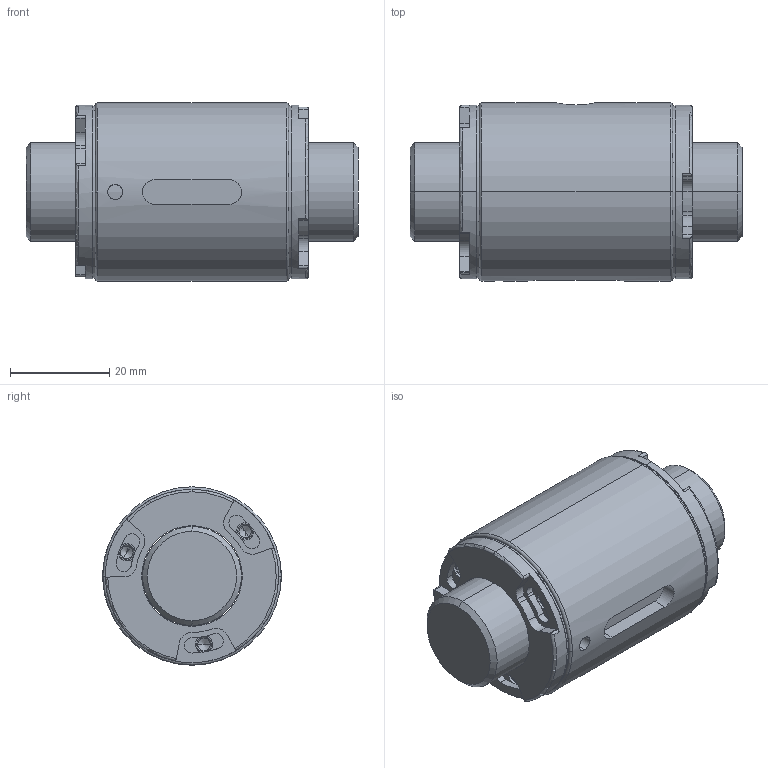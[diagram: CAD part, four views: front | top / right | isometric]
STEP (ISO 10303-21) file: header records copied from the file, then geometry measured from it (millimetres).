
FILE_DESCRIPTION (( 'STEP AP203' ), '1' );
FILE_NAME ('SCHR02005E1-C.STEP', '2020-06-17T08:47:31', ( '' ), ( '' ), 'SwSTEP 2.0', 'SolidWorks 2013', '' );
FILE_SCHEMA (( 'CONFIG_CONTROL_DESIGN' ));
Length unit declared in the file: millimetre
Products named in the file (1): SCHR02005E1-C
Bounding box: 67 x 36 x 36 mm (x, y, z)
Volume: 49684.9 mm3; surface area: 15482.9 mm2
Topology: 2 solids, 2 shells, 226 faces, 575 edges, 363 vertices
Faces by surface type: cylinder 122, plane 64, cone 28, torus 12
Entity records: 7238 total; most frequent: CARTESIAN_POINT 1485, DIRECTION 1333, ORIENTED_EDGE 1126, AXIS2_PLACEMENT_3D 567, EDGE_CURVE 563, VERTEX_POINT 363, CIRCLE 340, EDGE_LOOP 252
